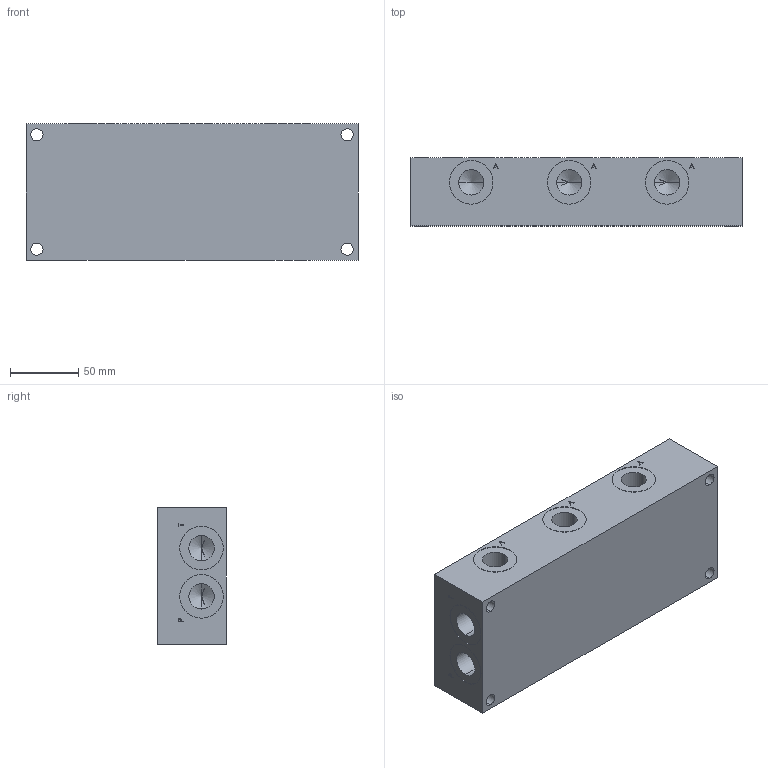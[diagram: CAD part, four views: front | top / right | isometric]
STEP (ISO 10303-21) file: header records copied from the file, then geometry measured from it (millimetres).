
FILE_DESCRIPTION (( 'STEP AP214' ), '1' );
FILE_NAME ('A10_3.STEP', '2017-05-01T14:05:46', ( '' ), ( '' ), 'SwSTEP 2.0', 'SolidWorks 2016', '' );
FILE_SCHEMA (( 'AUTOMOTIVE_DESIGN' ));
Length unit declared in the file: millimetre
Products named in the file (1): A10_3
Bounding box: 244 x 50 x 100 mm (x, y, z)
Volume: 1127601.9 mm3; surface area: 110402.3 mm2
Topology: 1 solids, 1 shells, 293 faces, 731 edges, 434 vertices
Faces by surface type: plane 108, cylinder 88, cone 64, bspline 33
Entity records: 10491 total; most frequent: CARTESIAN_POINT 3470, ORIENTED_EDGE 1334, DIRECTION 1287, EDGE_CURVE 667, VERTEX_POINT 434, AXIS2_PLACEMENT_3D 431, VECTOR 425, LINE 425
